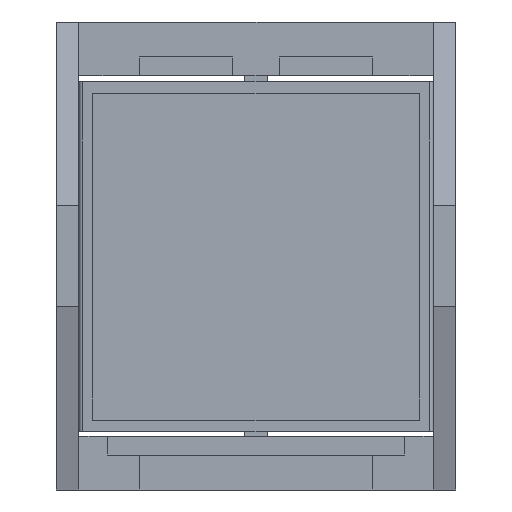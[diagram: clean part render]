
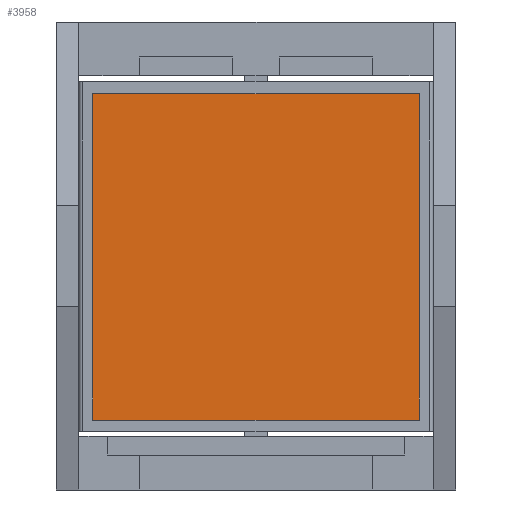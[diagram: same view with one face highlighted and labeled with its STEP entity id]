
A CAD part, front view. The second image highlights one B-rep face of the part: STEP entity #3958.
In plain terms, the highlighted planar face has unit normal (0, -1, 0).
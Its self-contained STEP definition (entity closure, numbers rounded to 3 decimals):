
#366 = VERTEX_POINT ( 'NONE', #6618 ) ;
#370 = CARTESIAN_POINT ( 'NONE',  ( -11.919, -3.447, -7.477 ) ) ;
#449 = VECTOR ( 'NONE', #5539, 1000. ) ;
#510 = DIRECTION ( 'NONE',  ( 0., 0., 1. ) ) ;
#688 = ORIENTED_EDGE ( 'NONE', *, *, #930, .F. ) ;
#930 = EDGE_CURVE ( 'NONE', #2526, #3224, #2822, .T. ) ;
#988 = ORIENTED_EDGE ( 'NONE', *, *, #4284, .F. ) ;
#1360 = LINE ( 'NONE', #3652, #6537 ) ;
#1638 = CARTESIAN_POINT ( 'NONE',  ( -11.919, -3.447, 13.523 ) ) ;
#2509 = ORIENTED_EDGE ( 'NONE', *, *, #3007, .F. ) ;
#2526 = VERTEX_POINT ( 'NONE', #4064 ) ;
#2723 = FACE_OUTER_BOUND ( 'NONE', #4215, .T. ) ;
#2822 = LINE ( 'NONE', #3979, #449 ) ;
#2977 = VERTEX_POINT ( 'NONE', #4315 ) ;
#3007 = EDGE_CURVE ( 'NONE', #366, #2526, #1360, .T. ) ;
#3092 = DIRECTION ( 'NONE',  ( 0., 0., -1. ) ) ;
#3224 = VERTEX_POINT ( 'NONE', #3608 ) ;
#3357 = DIRECTION ( 'NONE',  ( 0., 1., 0. ) ) ;
#3608 = CARTESIAN_POINT ( 'NONE',  ( -11.919, -3.447, -7.477 ) ) ;
#3652 = CARTESIAN_POINT ( 'NONE',  ( 9.081, -3.447, -7.477 ) ) ;
#3958 = ADVANCED_FACE ( 'NONE', ( #2723 ), #6742, .F. ) ;
#3979 = CARTESIAN_POINT ( 'NONE',  ( -11.919, -3.447, -7.477 ) ) ;
#4064 = CARTESIAN_POINT ( 'NONE',  ( 9.081, -3.447, -7.477 ) ) ;
#4215 = EDGE_LOOP ( 'NONE', ( #5777, #688, #2509, #988 ) ) ;
#4284 = EDGE_CURVE ( 'NONE', #2977, #366, #5199, .T. ) ;
#4315 = CARTESIAN_POINT ( 'NONE',  ( -11.919, -3.447, 13.523 ) ) ;
#4639 = CARTESIAN_POINT ( 'NONE',  ( -11.919, -3.447, 13.523 ) ) ;
#4787 = DIRECTION ( 'NONE',  ( 0., 0., 1. ) ) ;
#5199 = LINE ( 'NONE', #4639, #5961 ) ;
#5407 = LINE ( 'NONE', #370, #6897 ) ;
#5539 = DIRECTION ( 'NONE',  ( -1., 0., 0. ) ) ;
#5777 = ORIENTED_EDGE ( 'NONE', *, *, #7099, .F. ) ;
#5961 = VECTOR ( 'NONE', #6414, 1000. ) ;
#6414 = DIRECTION ( 'NONE',  ( 1., 0., 0. ) ) ;
#6537 = VECTOR ( 'NONE', #3092, 1000. ) ;
#6618 = CARTESIAN_POINT ( 'NONE',  ( 9.081, -3.447, 13.523 ) ) ;
#6742 = PLANE ( 'NONE',  #7155 ) ;
#6897 = VECTOR ( 'NONE', #4787, 1000. ) ;
#7099 = EDGE_CURVE ( 'NONE', #3224, #2977, #5407, .T. ) ;
#7155 = AXIS2_PLACEMENT_3D ( 'NONE', #1638, #3357, #510 ) ;
